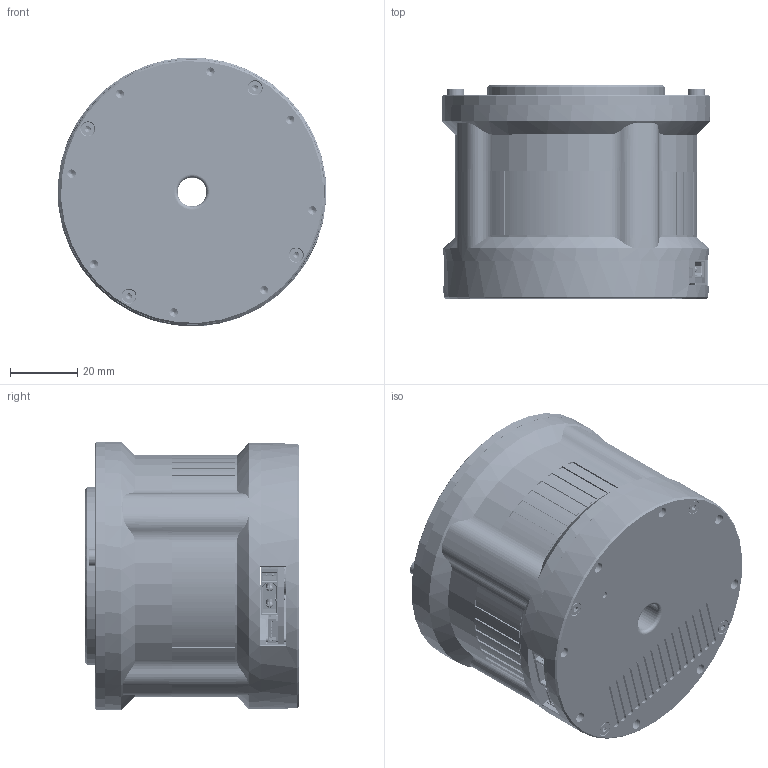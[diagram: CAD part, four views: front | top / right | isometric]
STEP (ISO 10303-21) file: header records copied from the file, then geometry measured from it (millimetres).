
FILE_DESCRIPTION (( 'STEP AP203' ), '1' );
FILE_NAME ('RMD-X6-P20-50-E-L 外形图.STEP', '2026-09-19T05:24:05', ( '微软用户' ), ( '微软中国' ), 'SwSTEP 2.0', 'SolidWorks 2020', '' );
FILE_SCHEMA (( 'CONFIG_CONTROL_DESIGN' ));
Length unit declared in the file: millimetre
Products named in the file (20): X6-_________Default________.STEP; X6-P20-60-L驱动板; 65PH20-16L-3-0-01.STEP; GBT70_1_M3X20.STEP; 65PH20-16L-0-0-07.STEP; 65PH20-16L-3-1-00_ASM.STEP; 65PH20-16L-6-0-00_ASM.STEP; 80ZWC64LEG20-1_0_0-06.STEP; 80ZWC64LEG-1_0_0-06.STEP; 65PH20-16L-0-0-04.STEP; 80ZWC64LEG20-1_1_0-00_ASM.STEP; 80ZWC64LEG-1_0_0-07.STEP; 80ZWC64LEG20-1_0_0-00-M_ASM.STEP; 65PH20-16L-2-0-00MC_ASM.STEP; 80ZWC64LEG-1_0_0-02.STEP; 65PH20-16L-3-0-00_ASM.STEP; M2X14.STEP; 65PH20-16L-0-0-08.STEP; RMD-X6-P20-50-E-L 俋倛芞; 80ZWC64LEG-1_0_0-10.STEP
Assembly tree (30 placements, depth 5):
  RMD-X6-P20-50-E-L 俋倛芞
    80ZWC64LEG20-1_0_0-00-M_ASM.STEP
      80ZWC64LEG20-1_1_0-00_ASM.STEP
        80ZWC64LEG-1_0_0-02.STEP
      80ZWC64LEG-1_0_0-06.STEP
    65PH20-16L-2-0-00MC_ASM.STEP
      65PH20-16L-3-0-00_ASM.STEP
        65PH20-16L-3-1-00_ASM.STEP
          65PH20-16L-3-0-01.STEP
      65PH20-16L-6-0-00_ASM.STEP
        65PH20-16L-0-0-08.STEP
      65PH20-16L-0-0-04.STEP
      65PH20-16L-0-0-07.STEP  x2
    80ZWC64LEG-1_0_0-07.STEP
    80ZWC64LEG-1_0_0-10.STEP  x4
    80ZWC64LEG20-1_0_0-06.STEP  x2
    GBT70_1_M3X20.STEP  x4
    X6-_________Default________.STEP
    M2X14.STEP  x4
    X6-P20-60-L驱动板
Bounding box: 79.91 x 63.5 x 79.97 mm (x, y, z)
Volume: 46232.2 mm3; surface area: 87260.6 mm2
Topology: 48 solids, 91 shells, 3858 faces, 10321 edges, 6688 vertices
Faces by surface type: plane 1671, cylinder 1305, bspline 594, cone 257, sphere 16, torus 15
Entity records: 136204 total; most frequent: CARTESIAN_POINT 57106, ORIENTED_EDGE 17246, DIRECTION 13293, EDGE_CURVE 8691, VERTEX_POINT 5721, LINE 4781, VECTOR 4781, AXIS2_PLACEMENT_3D 4256
